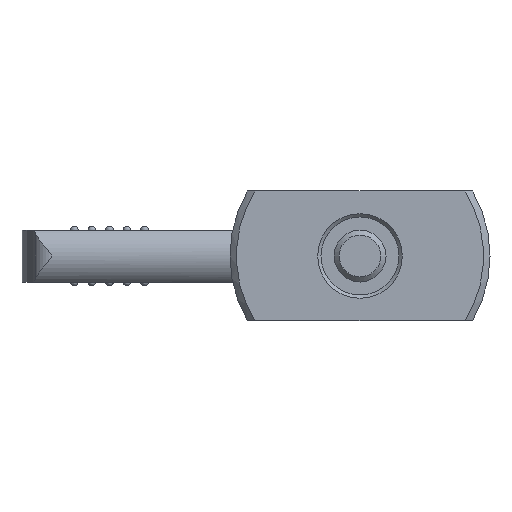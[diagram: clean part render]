
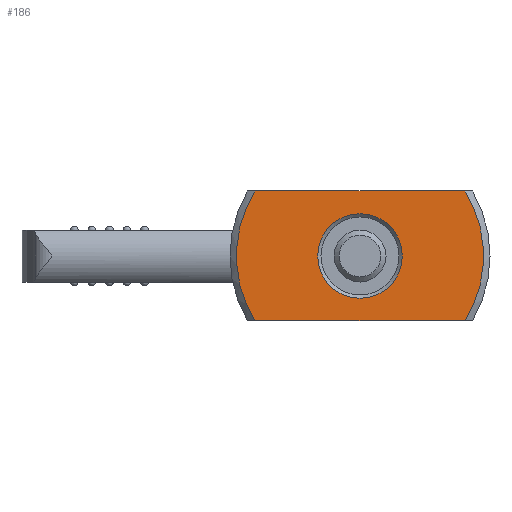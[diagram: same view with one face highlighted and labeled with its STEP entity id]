
A CAD part, front view. The second image highlights one B-rep face of the part: STEP entity #186.
In plain terms, the highlighted planar face has unit normal (0, -1, 0).
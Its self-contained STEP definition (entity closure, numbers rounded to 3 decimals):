
#186 = ADVANCED_FACE( '', ( #312, #313 ), #314, .F. );
#312 = FACE_BOUND( '', #565, .T. );
#313 = FACE_OUTER_BOUND( '', #566, .T. );
#314 = PLANE( '', #567 );
#565 = EDGE_LOOP( '', ( #922 ) );
#566 = EDGE_LOOP( '', ( #923, #924, #925, #926 ) );
#567 = AXIS2_PLACEMENT_3D( '', #927, #928, #929 );
#922 = ORIENTED_EDGE( '', *, *, #1555, .F. );
#923 = ORIENTED_EDGE( '', *, *, #1545, .T. );
#924 = ORIENTED_EDGE( '', *, *, #1541, .T. );
#925 = ORIENTED_EDGE( '', *, *, #1534, .T. );
#926 = ORIENTED_EDGE( '', *, *, #1556, .T. );
#927 = CARTESIAN_POINT( '', ( 19., 0., 0. ) );
#928 = DIRECTION( '', ( 0., 1., 0. ) );
#929 = DIRECTION( '', ( 0., 0., 1. ) );
#1534 = EDGE_CURVE( '', #1767, #1768, #1769, .T. );
#1541 = EDGE_CURVE( '', #1780, #1767, #1781, .T. );
#1545 = EDGE_CURVE( '', #1787, #1780, #1788, .T. );
#1555 = EDGE_CURVE( '', #1801, #1801, #1802, .T. );
#1556 = EDGE_CURVE( '', #1768, #1787, #1803, .T. );
#1767 = VERTEX_POINT( '', #2346 );
#1768 = VERTEX_POINT( '', #2347 );
#1769 = CIRCLE( '', #2348, 19. );
#1780 = VERTEX_POINT( '', #2366 );
#1781 = LINE( '', #2367, #2368 );
#1787 = VERTEX_POINT( '', #2378 );
#1788 = CIRCLE( '', #2379, 19. );
#1801 = VERTEX_POINT( '', #2422 );
#1802 = CIRCLE( '', #2423, 6.5 );
#1803 = LINE( '', #2424, #2425 );
#2346 = CARTESIAN_POINT( '', ( 16.155, 0., -10. ) );
#2347 = CARTESIAN_POINT( '', ( 16.155, 0., 10. ) );
#2348 = AXIS2_PLACEMENT_3D( '', #2829, #2830, #2831 );
#2366 = CARTESIAN_POINT( '', ( -16.155, 0., -10. ) );
#2367 = CARTESIAN_POINT( '', ( 19., 0., -10. ) );
#2368 = VECTOR( '', #2842, 1000. );
#2378 = CARTESIAN_POINT( '', ( -16.155, 0., 10. ) );
#2379 = AXIS2_PLACEMENT_3D( '', #2847, #2848, #2849 );
#2422 = CARTESIAN_POINT( '', ( 0., 0., -6.5 ) );
#2423 = AXIS2_PLACEMENT_3D( '', #2861, #2862, #2863 );
#2424 = CARTESIAN_POINT( '', ( 19., 0., 10. ) );
#2425 = VECTOR( '', #2864, 1000. );
#2829 = CARTESIAN_POINT( '', ( 0., 0., 0. ) );
#2830 = DIRECTION( '', ( 0., -1., 0. ) );
#2831 = DIRECTION( '', ( 0., 0., -1. ) );
#2842 = DIRECTION( '', ( 1., 0., 0. ) );
#2847 = CARTESIAN_POINT( '', ( 0., 0., 0. ) );
#2848 = DIRECTION( '', ( 0., -1., 0. ) );
#2849 = DIRECTION( '', ( 0., 0., -1. ) );
#2861 = CARTESIAN_POINT( '', ( 0., 0., 0. ) );
#2862 = DIRECTION( '', ( 0., -1., 0. ) );
#2863 = DIRECTION( '', ( 0., 0., -1. ) );
#2864 = DIRECTION( '', ( -1., 0., 0. ) );
